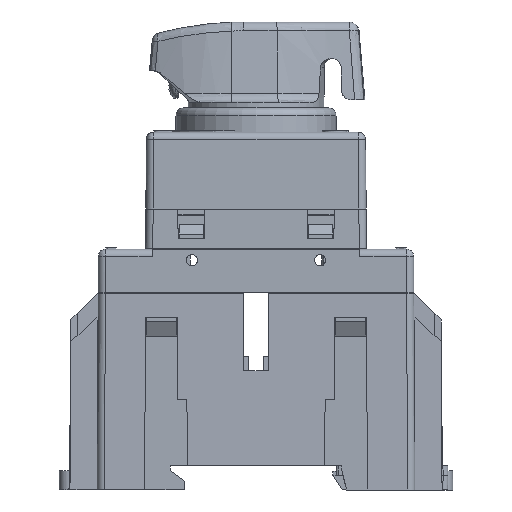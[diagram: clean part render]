
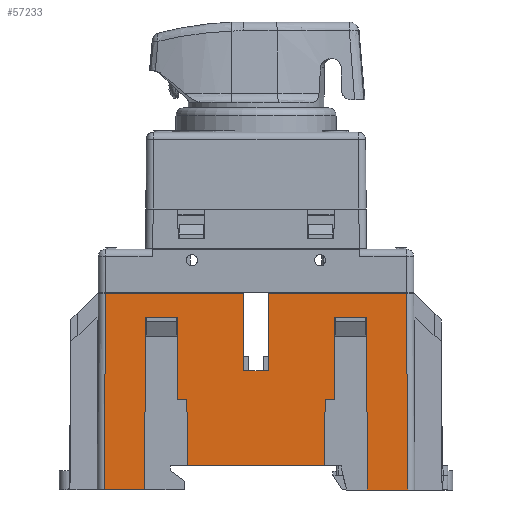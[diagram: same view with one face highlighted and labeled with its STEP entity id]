
A CAD part, left-side view. The second image highlights one B-rep face of the part: STEP entity #57233.
In plain terms, the highlighted planar face has unit normal (-1, 0, 0.005).
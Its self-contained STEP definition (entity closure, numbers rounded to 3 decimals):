
#27757=CARTESIAN_POINT('',(-54.686,-14.147,-1.7));
#27758=VERTEX_POINT('',#27757);
#27765=CARTESIAN_POINT('',(-54.686,14.147,-1.7));
#27766=VERTEX_POINT('',#27765);
#27767=CARTESIAN_POINT('',(-54.686,-14.147,-1.7));
#27768=DIRECTION('',(0.,1.0,0.));
#27769=VECTOR('',#27768,28.295);
#27770=LINE('',#27767,#27769);
#27771=EDGE_CURVE('',#27758,#27766,#27770,.T.);
#28184=CARTESIAN_POINT('',(-54.526,-16.35,28.9));
#28185=VERTEX_POINT('',#28184);
#28186=CARTESIAN_POINT('',(-54.526,-22.6,28.9));
#28187=VERTEX_POINT('',#28186);
#28188=CARTESIAN_POINT('',(-54.526,-22.6,28.9));
#28189=DIRECTION('',(0.,1.0,0.));
#28190=VECTOR('',#28189,6.25);
#28191=LINE('',#28188,#28190);
#28192=EDGE_CURVE('',#28185,#28187,#28191,.F.);
#28304=CARTESIAN_POINT('',(-54.526,22.6,28.9));
#28305=VERTEX_POINT('',#28304);
#28306=CARTESIAN_POINT('',(-54.526,16.35,28.9));
#28307=VERTEX_POINT('',#28306);
#28308=CARTESIAN_POINT('',(-54.526,16.35,28.9));
#28309=DIRECTION('',(0.,1.0,0.));
#28310=VECTOR('',#28309,6.25);
#28311=LINE('',#28308,#28310);
#28312=EDGE_CURVE('',#28305,#28307,#28311,.F.);
#45745=CARTESIAN_POINT('',(-54.526,-16.2,28.9));
#45746=VERTEX_POINT('',#45745);
#45747=CARTESIAN_POINT('',(-54.526,-16.35,28.9));
#45748=DIRECTION('',(0.,1.0,0.));
#45749=VECTOR('',#45748,0.15);
#45750=LINE('',#45747,#45749);
#45751=EDGE_CURVE('',#45746,#28185,#45750,.F.);
#45784=CARTESIAN_POINT('',(-54.526,-22.75,28.9));
#45785=VERTEX_POINT('',#45784);
#45792=CARTESIAN_POINT('',(-54.526,-22.75,28.9));
#45793=DIRECTION('',(0.,1.0,0.));
#45794=VECTOR('',#45793,0.15);
#45795=LINE('',#45792,#45794);
#45796=EDGE_CURVE('',#28187,#45785,#45795,.F.);
#45868=CARTESIAN_POINT('',(-54.526,16.2,28.9));
#45869=VERTEX_POINT('',#45868);
#45876=CARTESIAN_POINT('',(-54.526,16.2,28.9));
#45877=DIRECTION('',(0.,1.0,0.));
#45878=VECTOR('',#45877,0.15);
#45879=LINE('',#45876,#45878);
#45880=EDGE_CURVE('',#28307,#45869,#45879,.F.);
#45891=CARTESIAN_POINT('',(-54.526,22.75,28.9));
#45892=VERTEX_POINT('',#45891);
#45893=CARTESIAN_POINT('',(-54.526,22.6,28.9));
#45894=DIRECTION('',(0.,1.0,0.));
#45895=VECTOR('',#45894,0.15);
#45896=LINE('',#45893,#45895);
#45897=EDGE_CURVE('',#45892,#28305,#45896,.F.);
#49051=CARTESIAN_POINT('',(-54.712,22.936,-6.7));
#49052=VERTEX_POINT('',#49051);
#49059=CARTESIAN_POINT('',(-54.712,31.212,-6.7));
#49060=VERTEX_POINT('',#49059);
#49061=CARTESIAN_POINT('',(-54.712,22.936,-6.7));
#49062=DIRECTION('',(0.,1.0,0.));
#49063=VECTOR('',#49062,8.276);
#49064=LINE('',#49061,#49063);
#49065=EDGE_CURVE('',#49060,#49052,#49064,.F.);
#49547=CARTESIAN_POINT('',(-54.712,-31.212,-6.7));
#49548=VERTEX_POINT('',#49547);
#49556=CARTESIAN_POINT('',(-54.712,-22.936,-6.7));
#49557=VERTEX_POINT('',#49556);
#49558=CARTESIAN_POINT('',(-54.712,-31.212,-6.7));
#49559=DIRECTION('',(0.,1.0,0.));
#49560=VECTOR('',#49559,8.276);
#49561=LINE('',#49558,#49560);
#49562=EDGE_CURVE('',#49548,#49557,#49561,.T.);
#50174=CARTESIAN_POINT('',(-54.5,31.,33.8));
#50175=VERTEX_POINT('',#50174);
#50183=CARTESIAN_POINT('',(-54.5,2.584,33.8));
#50184=VERTEX_POINT('',#50183);
#50185=CARTESIAN_POINT('',(-54.5,2.584,33.8));
#50186=DIRECTION('',(0.,1.0,0.));
#50187=VECTOR('',#50186,28.416);
#50188=LINE('',#50185,#50187);
#50189=EDGE_CURVE('',#50184,#50175,#50188,.T.);
#57110=CARTESIAN_POINT('',(-54.712,31.212,-6.7));
#57111=DIRECTION('',(0.005,-0.005,1.));
#57112=VECTOR('',#57111,40.501);
#57113=LINE('',#57110,#57112);
#57114=EDGE_CURVE('',#49060,#50175,#57113,.T.);
#57121=CARTESIAN_POINT('',(-54.677,0.,0.));
#57122=DIRECTION('',(-1.,0.,0.005));
#57123=DIRECTION('',(0.005,0.,1.));
#57124=AXIS2_PLACEMENT_3D('',#57121,#57122,#57123);
#57125=PLANE('',#57124);
#57126=ORIENTED_EDGE('',*,*,#57114,.F.);
#57127=ORIENTED_EDGE('',*,*,#49065,.T.);
#57128=CARTESIAN_POINT('',(-54.712,22.936,-6.7));
#57129=DIRECTION('',(0.005,-0.005,1.));
#57130=VECTOR('',#57129,35.601);
#57131=LINE('',#57128,#57130);
#57132=EDGE_CURVE('',#49052,#45892,#57131,.T.);
#57133=ORIENTED_EDGE('',*,*,#57132,.T.);
#57134=ORIENTED_EDGE('',*,*,#45897,.T.);
#57135=ORIENTED_EDGE('',*,*,#28312,.T.);
#57136=ORIENTED_EDGE('',*,*,#45880,.T.);
#57137=CARTESIAN_POINT('',(-54.614,16.112,12.));
#57138=VERTEX_POINT('',#57137);
#57139=CARTESIAN_POINT('',(-54.526,16.2,28.9));
#57140=DIRECTION('',(-0.005,-0.005,-1.));
#57141=VECTOR('',#57140,16.9);
#57142=LINE('',#57139,#57141);
#57143=EDGE_CURVE('',#45869,#57138,#57142,.T.);
#57144=ORIENTED_EDGE('',*,*,#57143,.T.);
#57145=CARTESIAN_POINT('',(-54.614,14.219,12.));
#57146=VERTEX_POINT('',#57145);
#57147=CARTESIAN_POINT('',(-54.614,14.219,12.));
#57148=DIRECTION('',(0.,1.0,0.));
#57149=VECTOR('',#57148,1.892);
#57150=LINE('',#57147,#57149);
#57151=EDGE_CURVE('',#57138,#57146,#57150,.F.);
#57152=ORIENTED_EDGE('',*,*,#57151,.T.);
#57153=CARTESIAN_POINT('',(-54.614,14.219,12.));
#57154=DIRECTION('',(-0.005,-0.005,-1.));
#57155=VECTOR('',#57154,13.7);
#57156=LINE('',#57153,#57155);
#57157=EDGE_CURVE('',#57146,#27766,#57156,.T.);
#57158=ORIENTED_EDGE('',*,*,#57157,.T.);
#57159=ORIENTED_EDGE('',*,*,#27771,.F.);
#57160=CARTESIAN_POINT('',(-54.614,-14.219,12.));
#57161=VERTEX_POINT('',#57160);
#57162=CARTESIAN_POINT('',(-54.686,-14.147,-1.7));
#57163=DIRECTION('',(0.005,-0.005,1.));
#57164=VECTOR('',#57163,13.7);
#57165=LINE('',#57162,#57164);
#57166=EDGE_CURVE('',#27758,#57161,#57165,.T.);
#57167=ORIENTED_EDGE('',*,*,#57166,.T.);
#57168=CARTESIAN_POINT('',(-54.614,-16.112,12.));
#57169=VERTEX_POINT('',#57168);
#57170=CARTESIAN_POINT('',(-54.614,-16.112,12.));
#57171=DIRECTION('',(0.,1.0,0.));
#57172=VECTOR('',#57171,1.892);
#57173=LINE('',#57170,#57172);
#57174=EDGE_CURVE('',#57161,#57169,#57173,.F.);
#57175=ORIENTED_EDGE('',*,*,#57174,.T.);
#57176=CARTESIAN_POINT('',(-54.614,-16.112,12.));
#57177=DIRECTION('',(0.005,-0.005,1.));
#57178=VECTOR('',#57177,16.9);
#57179=LINE('',#57176,#57178);
#57180=EDGE_CURVE('',#57169,#45746,#57179,.T.);
#57181=ORIENTED_EDGE('',*,*,#57180,.T.);
#57182=ORIENTED_EDGE('',*,*,#45751,.T.);
#57183=ORIENTED_EDGE('',*,*,#28192,.T.);
#57184=ORIENTED_EDGE('',*,*,#45796,.T.);
#57185=CARTESIAN_POINT('',(-54.526,-22.75,28.9));
#57186=DIRECTION('',(-0.005,-0.005,-1.));
#57187=VECTOR('',#57186,35.601);
#57188=LINE('',#57185,#57187);
#57189=EDGE_CURVE('',#45785,#49557,#57188,.T.);
#57190=ORIENTED_EDGE('',*,*,#57189,.T.);
#57191=ORIENTED_EDGE('',*,*,#49562,.F.);
#57192=CARTESIAN_POINT('',(-54.5,-31.,33.8));
#57193=VERTEX_POINT('',#57192);
#57194=CARTESIAN_POINT('',(-54.5,-31.,33.8));
#57195=DIRECTION('',(-0.005,-0.005,-1.));
#57196=VECTOR('',#57195,40.501);
#57197=LINE('',#57194,#57196);
#57198=EDGE_CURVE('',#57193,#49548,#57197,.T.);
#57199=ORIENTED_EDGE('',*,*,#57198,.F.);
#57200=CARTESIAN_POINT('',(-54.5,-2.584,33.8));
#57201=VERTEX_POINT('',#57200);
#57202=CARTESIAN_POINT('',(-54.5,-2.584,33.8));
#57203=DIRECTION('',(0.,-1.0,0.));
#57204=VECTOR('',#57203,28.416);
#57205=LINE('',#57202,#57204);
#57206=EDGE_CURVE('',#57201,#57193,#57205,.T.);
#57207=ORIENTED_EDGE('',*,*,#57206,.F.);
#57208=CARTESIAN_POINT('',(-54.584,-2.5,17.8));
#57209=VERTEX_POINT('',#57208);
#57210=CARTESIAN_POINT('',(-54.584,-2.5,17.8));
#57211=DIRECTION('',(0.005,-0.005,1.));
#57212=VECTOR('',#57211,16.);
#57213=LINE('',#57210,#57212);
#57214=EDGE_CURVE('',#57201,#57209,#57213,.F.);
#57215=ORIENTED_EDGE('',*,*,#57214,.T.);
#57216=CARTESIAN_POINT('',(-54.584,2.5,17.8));
#57217=VERTEX_POINT('',#57216);
#57218=CARTESIAN_POINT('',(-54.584,-2.5,17.8));
#57219=DIRECTION('',(0.,1.0,0.0));
#57220=VECTOR('',#57219,5.);
#57221=LINE('',#57218,#57220);
#57222=EDGE_CURVE('',#57209,#57217,#57221,.T.);
#57223=ORIENTED_EDGE('',*,*,#57222,.T.);
#57224=CARTESIAN_POINT('',(-54.5,2.584,33.8));
#57225=DIRECTION('',(-0.005,-0.005,-1.));
#57226=VECTOR('',#57225,16.);
#57227=LINE('',#57224,#57226);
#57228=EDGE_CURVE('',#57217,#50184,#57227,.F.);
#57229=ORIENTED_EDGE('',*,*,#57228,.T.);
#57230=ORIENTED_EDGE('',*,*,#50189,.T.);
#57231=EDGE_LOOP('',(#57126,#57127,#57133,#57134,#57135,#57136,#57144,#57152,#57158,#57159,#57167,#57175,#57181,#57182,#57183,#57184,#57190,#57191,#57199,#57207,#57215,#57223,#57229,#57230));
#57232=FACE_OUTER_BOUND('',#57231,.T.);
#57233=ADVANCED_FACE('',(#57232),#57125,.T.);
